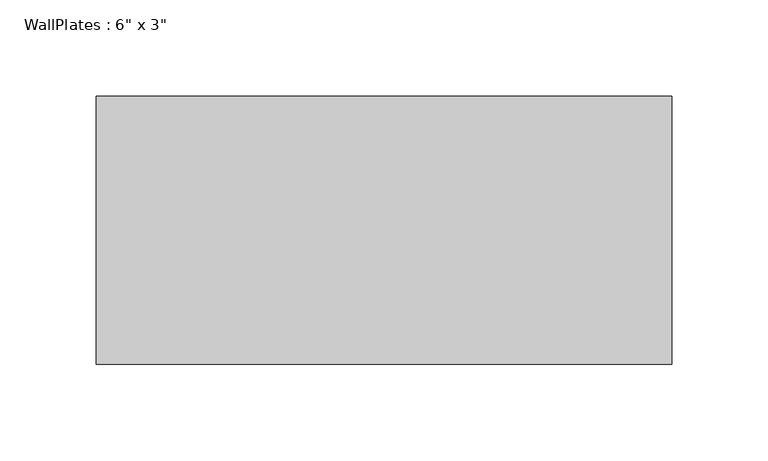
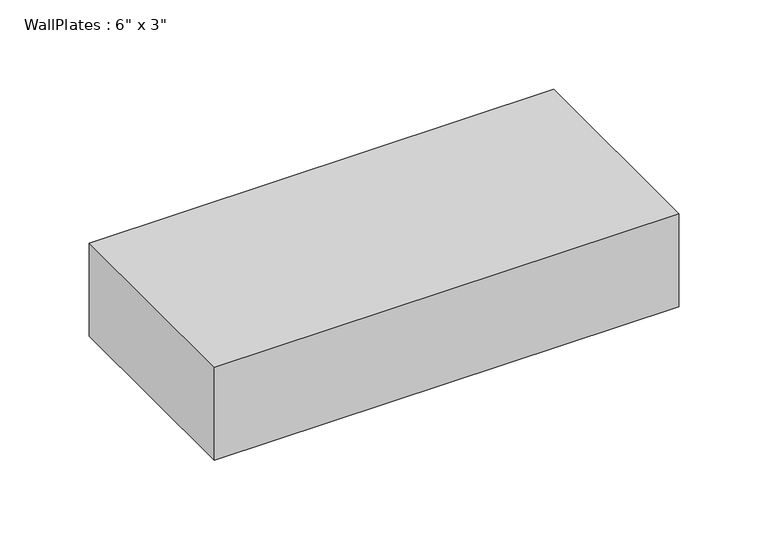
"""IFC4 building model written with IfcOpenShell, lengths in millimetres: beam geometry."""

from ifc_helpers import new_model, si_unit, frame, origin, place, context, project, spatial, polyline, outline, extrude, source, transform, mapped, element, save


def beam_6c0b117f(model_context):
    return source(origin(), model_context, "Body", "SweptSolid", [
        extrude(outline(polyline([(-149.8650127, -69.85), (-149.8650127, 69.85), (149.8650127, 69.85), (149.8650127, -69.85), (-149.8650127, -69.85)])), frame((0.0, 0.0, -31.75), z_axis=(0.0, 0.0, 1.0), x_axis=(1.0, 0.0, 0.0)), (0.0, 0.0, 1.0), 63.5),
    ])


if __name__ == "__main__":
    model = new_model("IFC4")
    model_context = context("Model", 3, world=origin())
    ifc_project = project(units=[si_unit("LENGTHUNIT", "METRE", prefix="MILLI")], contexts=[model_context])
    site = spatial("IfcSite", under=ifc_project)
    building = spatial("IfcBuilding", under=site)
    placement = place(None, origin())
    beam_shape = beam_6c0b117f(model_context)
    element("IfcBeam", 1, ObjectType="WallPlates : 6\" x 3\"", at=placement, inside=building, context=model_context, shape_type="MappedRepresentation", body=[
        mapped(beam_shape, transform((0.0, 0.0, 0.0), x_axis=(1.0, 0.0, 0.0), y_axis=(0.0, 1.0, 0.0), z_axis=(0.0, 0.0, 1.0))),
    ])
    save(model, "model.ifc")
